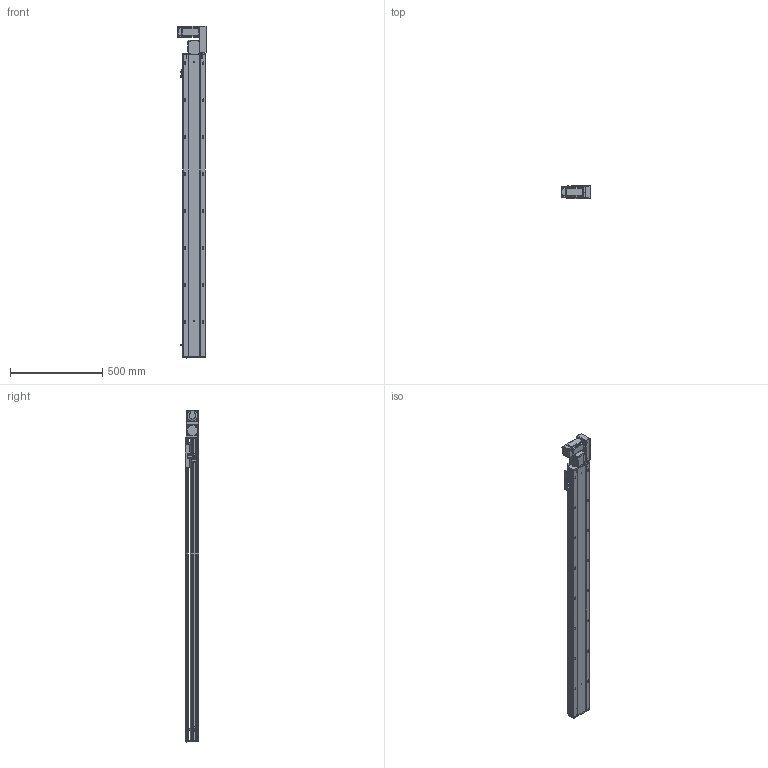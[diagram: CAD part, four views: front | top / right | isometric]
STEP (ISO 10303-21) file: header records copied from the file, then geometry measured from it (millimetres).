
FILE_DESCRIPTION (( 'STEP AP203' ), '1' );
FILE_NAME ('RY120-T-300-RK.SLDASM_1400.step', '2021-03-01T03:54:17', ( '盈信电脑' ), ( '东莞市道滘镇水果街19号' ), 'SwSTEP 2.0', 'SolidWorks 2012', '' );
FILE_SCHEMA (( 'CONFIG_CONTROL_DESIGN' ));
Length unit declared in the file: millimetre
Products named in the file (17): RY120-T-300-RK.SLDASM_1400; RY120-T主同步轮轴承压盖; RY120-T蹟翐M4; RY120-T萇儂欶; RY120-T萇儂假蚾啣; 15; RY120-T翋肮祭謫裔啣; 滅袉蝶18-10; RY120-T翋肮祭盓傅釱; 覜茼ん672; RY120肮祭湍臏賑輸; RY120綴裔啣; RY120-T-300-RK倰第菁釱_1400; RY120-T-300-RK倰第奻裔啣_1400; RY120-T肮祭湍揤踡輸1; RY120外置感应片(140共用）; RY120-T肮祭湍揤踡輸2
Assembly tree (22 placements, depth 2):
  RY120-T-300-RK.SLDASM_1400
    RY120-T-300-RK倰第菁釱_1400
    RY120-T-300-RK倰第奻裔啣_1400
    RY120肮祭湍臏賑輸
    RY120綴裔啣
    覜茼ん672  x3
    RY120外置感应片(140共用）
    RY120-T肮祭湍揤踡輸1
    RY120-T肮祭湍揤踡輸2
    RY120-T翋肮祭盓傅釱
    滅袉蝶18-10  x2
    RY120-T翋肮祭謫裔啣
    15
    RY120-T萇儂假蚾啣
    RY120-T蹟翐M4  x4
    RY120-T萇儂欶
    RY120-T主同步轮轴承压盖
Bounding box: 155.5 x 73 x 1797.5 mm (x, y, z)
Volume: 4494049.6 mm3; surface area: 1697381.1 mm2
Topology: 23 solids, 23 shells, 2910 faces, 7932 edges, 5068 vertices
Faces by surface type: plane 1422, cylinder 1120, cone 279, bspline 89
Entity records: 92611 total; most frequent: CARTESIAN_POINT 23622, ORIENTED_EDGE 14232, DIRECTION 13494, EDGE_CURVE 7116, VERTEX_POINT 4655, AXIS2_PLACEMENT_3D 4543, VECTOR 4408, LINE 4408
